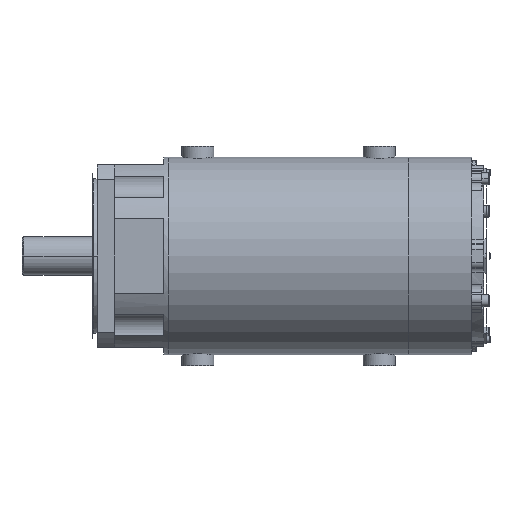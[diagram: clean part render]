
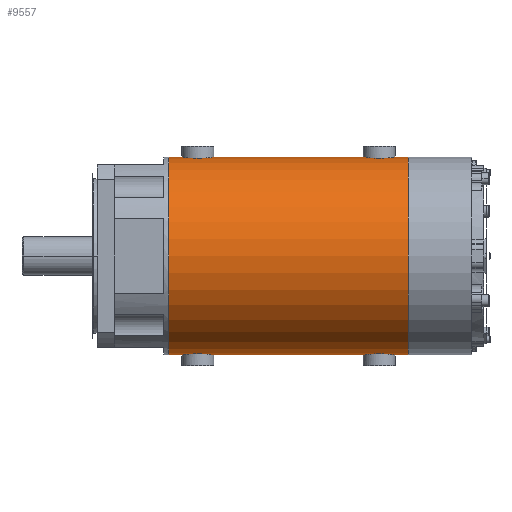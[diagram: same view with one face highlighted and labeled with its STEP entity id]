
A CAD part, front view. The second image highlights one B-rep face of the part: STEP entity #9557.
In plain terms, the highlighted cylindrical face has radius 108 mm (diameter 216 mm), a partial arc.
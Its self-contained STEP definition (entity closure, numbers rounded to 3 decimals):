
#6806=CARTESIAN_POINT('',(120.,0.,108.));
#6807=CARTESIAN_POINT('',(120.,-0.871,108.));
#6808=CARTESIAN_POINT('',(119.786,-2.559,107.98));
#6809=CARTESIAN_POINT('',(118.759,-5.068,107.889));
#6810=CARTESIAN_POINT('',(117.162,-7.135,107.769));
#6811=CARTESIAN_POINT('',(115.096,-8.742,107.648));
#6812=CARTESIAN_POINT('',(112.586,-9.783,107.557));
#6813=CARTESIAN_POINT('',(109.994,-10.109,107.526));
#6814=CARTESIAN_POINT('',(107.412,-9.781,107.557));
#6815=CARTESIAN_POINT('',(104.899,-8.741,107.649));
#6816=CARTESIAN_POINT('',(102.82,-7.117,107.77));
#6817=CARTESIAN_POINT('',(101.239,-5.06,107.89));
#6818=CARTESIAN_POINT('',(100.214,-2.557,107.98));
#6819=CARTESIAN_POINT('',(100.,-0.871,108.));
#6820=CARTESIAN_POINT('',(100.,0.,108.));
#6822=CARTESIAN_POINT('',(318.,0.,108.));
#6823=CARTESIAN_POINT('',(318.,-0.871,108.));
#6824=CARTESIAN_POINT('',(317.786,-2.559,107.98));
#6825=CARTESIAN_POINT('',(316.759,-5.068,107.889));
#6826=CARTESIAN_POINT('',(315.162,-7.135,107.769));
#6827=CARTESIAN_POINT('',(313.096,-8.742,107.648));
#6828=CARTESIAN_POINT('',(310.586,-9.783,107.557));
#6829=CARTESIAN_POINT('',(307.994,-10.109,107.526));
#6830=CARTESIAN_POINT('',(305.412,-9.781,107.557));
#6831=CARTESIAN_POINT('',(302.899,-8.741,107.649));
#6832=CARTESIAN_POINT('',(300.82,-7.117,107.77));
#6833=CARTESIAN_POINT('',(299.239,-5.06,107.89));
#6834=CARTESIAN_POINT('',(298.214,-2.557,107.98));
#6835=CARTESIAN_POINT('',(298.,-0.871,108.));
#6836=CARTESIAN_POINT('',(298.,0.,108.));
#6838=CARTESIAN_POINT('',(340.,0.,0.));
#6839=DIRECTION('',(1.,0.,0.));
#6840=DIRECTION('',(0.,0.,1.));
#6841=AXIS2_PLACEMENT_3D('',#6838,#6839,#6840);
#6843=DIRECTION('',(-1.,0.,0.));
#6844=VECTOR('',#6843,22.);
#6845=CARTESIAN_POINT('',(340.,0.,-108.));
#6846=LINE('',#6845,#6844);
#6847=CARTESIAN_POINT('',(298.,0.,-108.));
#6848=CARTESIAN_POINT('',(298.,-0.871,-108.));
#6849=CARTESIAN_POINT('',(298.214,-2.557,
-107.98));
#6850=CARTESIAN_POINT('',(299.238,-5.058,
-107.89));
#6851=CARTESIAN_POINT('',(300.821,-7.118,
-107.77));
#6852=CARTESIAN_POINT('',(302.898,-8.74,
-107.649));
#6853=CARTESIAN_POINT('',(305.411,-9.781,
-107.557));
#6854=CARTESIAN_POINT('',(307.995,-10.109,
-107.526));
#6855=CARTESIAN_POINT('',(310.585,-9.783,
-107.557));
#6856=CARTESIAN_POINT('',(313.096,-8.742,
-107.648));
#6857=CARTESIAN_POINT('',(315.162,-7.135,
-107.769));
#6858=CARTESIAN_POINT('',(316.758,-5.068,
-107.889));
#6859=CARTESIAN_POINT('',(317.786,-2.559,
-107.98));
#6860=CARTESIAN_POINT('',(318.,-0.871,-108.));
#6861=CARTESIAN_POINT('',(318.,0.,-108.));
#6863=DIRECTION('',(-1.,0.,0.));
#6864=VECTOR('',#6863,178.);
#6865=CARTESIAN_POINT('',(298.,0.,-108.));
#6866=LINE('',#6865,#6864);
#6867=CARTESIAN_POINT('',(100.,0.,-108.));
#6868=CARTESIAN_POINT('',(100.,-0.871,-108.));
#6869=CARTESIAN_POINT('',(100.214,-2.557,
-107.98));
#6870=CARTESIAN_POINT('',(101.238,-5.058,
-107.89));
#6871=CARTESIAN_POINT('',(102.821,-7.118,
-107.77));
#6872=CARTESIAN_POINT('',(104.898,-8.74,
-107.649));
#6873=CARTESIAN_POINT('',(107.411,-9.781,
-107.557));
#6874=CARTESIAN_POINT('',(109.995,-10.109,
-107.526));
#6875=CARTESIAN_POINT('',(112.585,-9.783,
-107.557));
#6876=CARTESIAN_POINT('',(115.096,-8.742,
-107.648));
#6877=CARTESIAN_POINT('',(117.162,-7.135,
-107.769));
#6878=CARTESIAN_POINT('',(118.758,-5.068,
-107.889));
#6879=CARTESIAN_POINT('',(119.786,-2.559,
-107.98));
#6880=CARTESIAN_POINT('',(120.,-0.871,-108.));
#6881=CARTESIAN_POINT('',(120.,0.,-108.));
#6883=DIRECTION('',(-1.,0.,0.));
#6884=VECTOR('',#6883,22.);
#6885=CARTESIAN_POINT('',(100.,0.,-108.));
#6886=LINE('',#6885,#6884);
#6887=CARTESIAN_POINT('',(78.,0.,0.));
#6888=DIRECTION('',(-1.,0.,0.));
#6889=DIRECTION('',(0.,0.,-1.));
#6890=AXIS2_PLACEMENT_3D('',#6887,#6888,#6889);
#9007=DIRECTION('',(-1.,0.,0.));
#9008=VECTOR('',#9007,22.);
#9009=CARTESIAN_POINT('',(100.,0.,108.));
#9010=LINE('',#9009,#9008);
#9053=DIRECTION('',(-1.,0.,0.));
#9054=VECTOR('',#9053,22.);
#9055=CARTESIAN_POINT('',(340.,0.,108.));
#9056=LINE('',#9055,#9054);
#9073=DIRECTION('',(-1.,0.,0.));
#9074=VECTOR('',#9073,178.);
#9075=CARTESIAN_POINT('',(298.,0.,108.));
#9076=LINE('',#9075,#9074);
#9253=CARTESIAN_POINT('',(340.,0.,-108.));
#9254=CARTESIAN_POINT('',(340.,0.,108.));
#9255=VERTEX_POINT('',#9253);
#9256=VERTEX_POINT('',#9254);
#9257=CARTESIAN_POINT('',(78.,0.,-108.));
#9258=CARTESIAN_POINT('',(78.,0.,108.));
#9259=VERTEX_POINT('',#9257);
#9260=VERTEX_POINT('',#9258);
#9502=VERTEX_POINT('',#6867);
#9503=VERTEX_POINT('',#6881);
#9504=VERTEX_POINT('',#6847);
#9505=VERTEX_POINT('',#6861);
#9510=CARTESIAN_POINT('',(120.,0.,108.));
#9512=VERTEX_POINT('',#9510);
#9514=CARTESIAN_POINT('',(100.,0.,108.));
#9516=VERTEX_POINT('',#9514);
#9518=CARTESIAN_POINT('',(318.,0.,108.));
#9520=VERTEX_POINT('',#9518);
#9522=CARTESIAN_POINT('',(298.,0.,108.));
#9524=VERTEX_POINT('',#9522);
#9526=CARTESIAN_POINT('',(340.,0.,0.));
#9527=DIRECTION('',(-1.,0.,0.));
#9528=DIRECTION('',(0.,0.,-1.));
#9529=AXIS2_PLACEMENT_3D('',#9526,#9527,#9528);
#9530=CYLINDRICAL_SURFACE('',#9529,108.);
#9532=ORIENTED_EDGE('',*,*,#9531,.F.);
#9534=ORIENTED_EDGE('',*,*,#9533,.F.);
#9536=ORIENTED_EDGE('',*,*,#9535,.F.);
#9538=ORIENTED_EDGE('',*,*,#9537,.F.);
#9540=ORIENTED_EDGE('',*,*,#9539,.T.);
#9542=ORIENTED_EDGE('',*,*,#9541,.T.);
#9544=ORIENTED_EDGE('',*,*,#9543,.F.);
#9546=ORIENTED_EDGE('',*,*,#9545,.T.);
#9548=ORIENTED_EDGE('',*,*,#9547,.F.);
#9550=ORIENTED_EDGE('',*,*,#9549,.T.);
#9552=ORIENTED_EDGE('',*,*,#9551,.T.);
#9554=ORIENTED_EDGE('',*,*,#9553,.F.);
#9555=EDGE_LOOP('',(#9532,#9534,#9536,#9538,#9540,#9542,#9544,#9546,#9548,#9550,
#9552,#9554));
#9556=FACE_OUTER_BOUND('',#9555,.F.);
#9557=ADVANCED_FACE('',(#9556),#9530,.T.);
#6821=B_SPLINE_CURVE_WITH_KNOTS('',3,(#6806,#6807,#6808,#6809,#6810,#6811,#6812,
#6813,#6814,#6815,#6816,#6817,#6818,#6819,#6820),.UNSPECIFIED.,.F.,.F.,(4,1,1,1,
1,1,1,1,1,1,1,1,4),(0.,0.083,0.167,0.25,
0.333,0.417,0.5,0.583,0.667,
0.75,0.833,0.917,1.),.UNSPECIFIED.);
#6837=B_SPLINE_CURVE_WITH_KNOTS('',3,(#6822,#6823,#6824,#6825,#6826,#6827,#6828,
#6829,#6830,#6831,#6832,#6833,#6834,#6835,#6836),.UNSPECIFIED.,.F.,.F.,(4,1,1,1,
1,1,1,1,1,1,1,1,4),(0.,0.083,0.167,0.25,
0.333,0.417,0.5,0.583,0.667,
0.75,0.833,0.917,1.),.UNSPECIFIED.);
#6842=CIRCLE('',#6841,108.);
#6862=B_SPLINE_CURVE_WITH_KNOTS('',3,(#6847,#6848,#6849,#6850,#6851,#6852,#6853,
#6854,#6855,#6856,#6857,#6858,#6859,#6860,#6861),.UNSPECIFIED.,.F.,.F.,(4,1,1,1,
1,1,1,1,1,1,1,1,4),(0.,0.083,0.167,0.25,
0.333,0.417,0.5,0.583,0.667,
0.75,0.833,0.917,1.),.UNSPECIFIED.);
#6882=B_SPLINE_CURVE_WITH_KNOTS('',3,(#6867,#6868,#6869,#6870,#6871,#6872,#6873,
#6874,#6875,#6876,#6877,#6878,#6879,#6880,#6881),.UNSPECIFIED.,.F.,.F.,(4,1,1,1,
1,1,1,1,1,1,1,1,4),(0.,0.083,0.167,0.25,
0.333,0.417,0.5,0.583,0.667,
0.75,0.833,0.917,1.),.UNSPECIFIED.);
#6891=CIRCLE('',#6890,108.);
#9531=EDGE_CURVE('',#9512,#9516,#6821,.T.);
#9533=EDGE_CURVE('',#9524,#9512,#9076,.T.);
#9535=EDGE_CURVE('',#9520,#9524,#6837,.T.);
#9537=EDGE_CURVE('',#9256,#9520,#9056,.T.);
#9539=EDGE_CURVE('',#9256,#9255,#6842,.T.);
#9541=EDGE_CURVE('',#9255,#9505,#6846,.T.);
#9543=EDGE_CURVE('',#9504,#9505,#6862,.T.);
#9545=EDGE_CURVE('',#9504,#9503,#6866,.T.);
#9547=EDGE_CURVE('',#9502,#9503,#6882,.T.);
#9549=EDGE_CURVE('',#9502,#9259,#6886,.T.);
#9551=EDGE_CURVE('',#9259,#9260,#6891,.T.);
#9553=EDGE_CURVE('',#9516,#9260,#9010,.T.);
